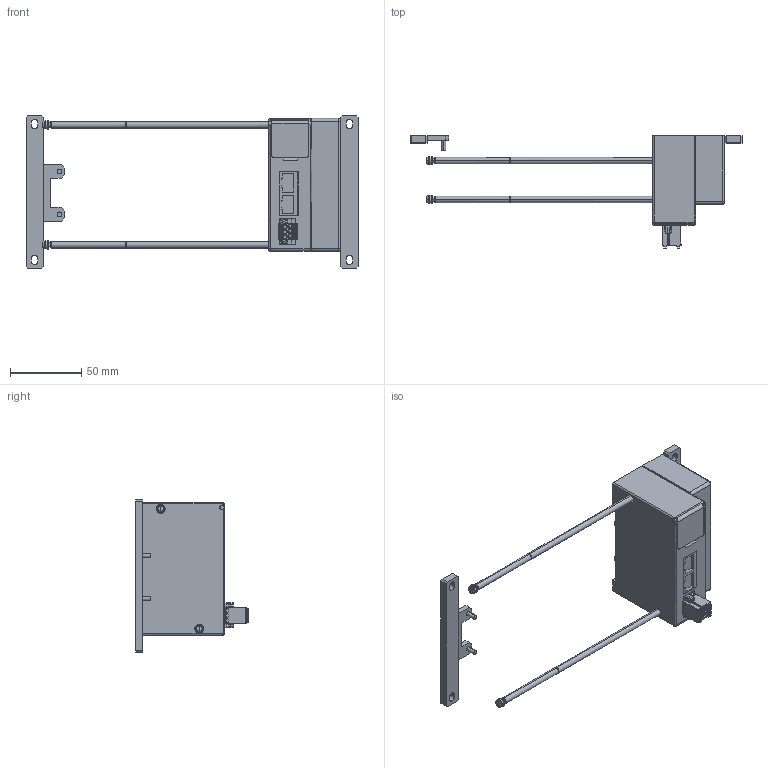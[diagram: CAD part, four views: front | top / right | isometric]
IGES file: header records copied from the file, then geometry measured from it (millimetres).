
Start section: ------------------------------------------------------------------------
Bounding box: 232.5 x 78.8 x 107 mm (x, y, z)
Volume: 273618 mm3; surface area: 45684.8 mm2
Topology: 3 solids, 3 shells, 837 faces, 2151 edges, 1371 vertices
Faces by surface type: bspline 837
